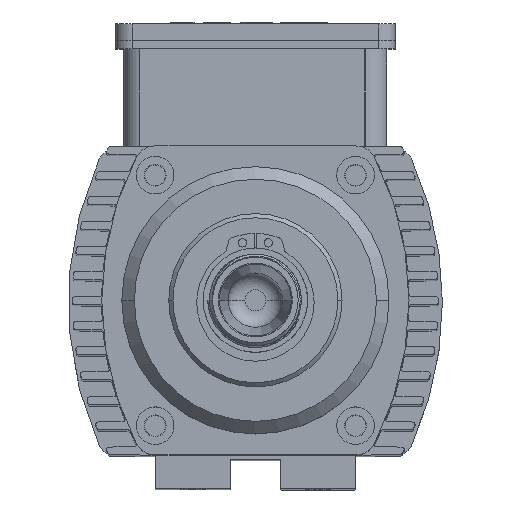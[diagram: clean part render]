
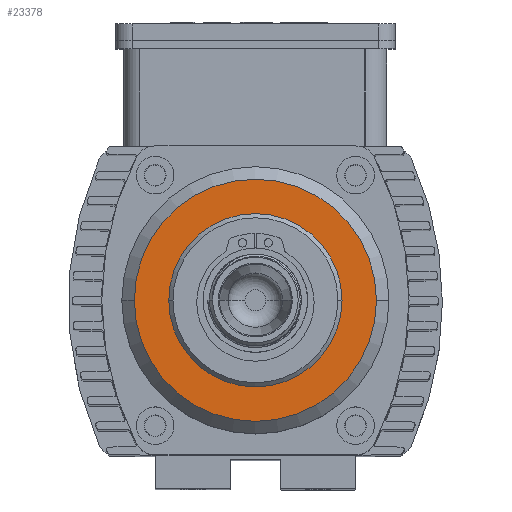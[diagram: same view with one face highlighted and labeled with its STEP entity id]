
A CAD part, top view. The second image highlights one B-rep face of the part: STEP entity #23378.
In plain terms, the highlighted planar face has unit normal (0, 0, 1).
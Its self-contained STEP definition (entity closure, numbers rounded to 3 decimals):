
#2427 = DIRECTION ( 'NONE',  ( 1., 0., 0. ) ) ;
#3278 = AXIS2_PLACEMENT_3D ( 'NONE', #7790, #25085, #22080 ) ;
#5426 = DIRECTION ( 'NONE',  ( 0., 0., 1. ) ) ;
#7443 = EDGE_CURVE ( 'NONE', #8589, #23611, #16264, .T. ) ;
#7790 = CARTESIAN_POINT ( 'NONE',  ( -1., 0., 18. ) ) ;
#8386 = CARTESIAN_POINT ( 'NONE',  ( 0., 0., 18. ) ) ;
#8490 = AXIS2_PLACEMENT_3D ( 'NONE', #8386, #5426, #2427 ) ;
#8589 = VERTEX_POINT ( 'NONE', #27423 ) ;
#9412 = CIRCLE ( 'NONE', #3278, 29. ) ;
#11360 = PLANE ( 'NONE',  #8490 ) ;
#14495 = FACE_OUTER_BOUND ( 'NONE', #15071, .T. ) ;
#15071 = EDGE_LOOP ( 'NONE', ( #28373, #21516 ) ) ;
#15964 = CARTESIAN_POINT ( 'NONE',  ( -1., 0., 18. ) ) ;
#16264 = CIRCLE ( 'NONE', #27687, 29. ) ;
#21516 = ORIENTED_EDGE ( 'NONE', *, *, #7443, .T. ) ;
#22080 = DIRECTION ( 'NONE',  ( 1., 0., 0. ) ) ;
#23378 = ADVANCED_FACE ( 'NONE', ( #14495 ), #11360, .T. ) ;
#23611 = VERTEX_POINT ( 'NONE', #27581 ) ;
#24301 = DIRECTION ( 'NONE',  ( 1., 0., 0. ) ) ;
#25027 = EDGE_CURVE ( 'NONE', #23611, #8589, #9412, .T. ) ;
#25085 = DIRECTION ( 'NONE',  ( 0., 0., 1. ) ) ;
#27275 = DIRECTION ( 'NONE',  ( 0., 0., 1. ) ) ;
#27423 = CARTESIAN_POINT ( 'NONE',  ( 28., 0., 18. ) ) ;
#27581 = CARTESIAN_POINT ( 'NONE',  ( -30., 0., 18. ) ) ;
#27687 = AXIS2_PLACEMENT_3D ( 'NONE', #15964, #27275, #24301 ) ;
#28373 = ORIENTED_EDGE ( 'NONE', *, *, #25027, .T. ) ;
